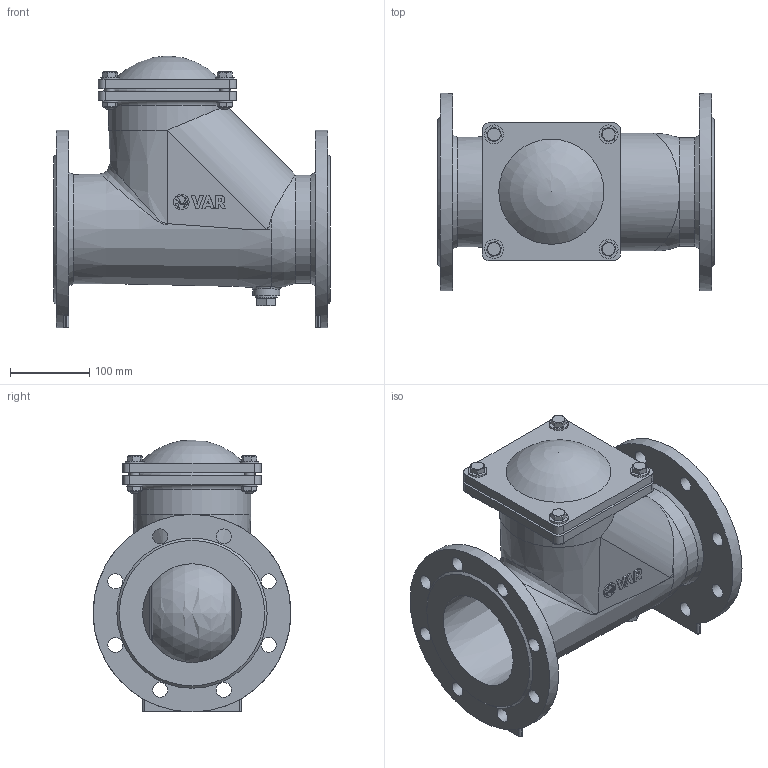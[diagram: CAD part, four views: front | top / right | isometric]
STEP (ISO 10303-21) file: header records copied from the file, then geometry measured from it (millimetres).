
FILE_DESCRIPTION(('STEP AP203'), '1');
FILE_NAME('Øàðîâîé îáðàòíûé êëàïàí VAG KRV', '', ('UNSPECIFIED'), ('UNSPECIFIED'), 'C3D Converter', 'C3D Toolkit', '');
FILE_SCHEMA(('CONFIG_CONTROL_DESIGN'));
Length unit declared in the file: millimetre
Assembly tree (22 placements, depth 2):
  (unnamed)
    (unnamed)
    (unnamed)
    (unnamed)
    (unnamed)
    (unnamed)
    (unnamed)  x4
    (unnamed)  x4
    (unnamed)  x4
    (unnamed)  x4
    (unnamed)
Bounding box: 350 x 250 x 344 mm (x, y, z)
Volume: 4380882.1 mm3; surface area: 828830.9 mm2
Topology: 23 solids, 24 shells, 550 faces, 1421 edges, 950 vertices
Faces by surface type: plane 269, extrusion 132, cylinder 83, cone 39, bspline 10, sphere 9, torus 8
Full cylindrical faces by diameter (mm): 10.106 x4, 10.5 x4, 12 x4, 13 x4, 14 x8, 16 x2, 17 x1, 19 x16, 19.736 x1, 20 x4, 22.49 x1, 24 x4, 28 x1, 34 x1, 125 x1, 137 x3, 149 x1, 250 x2
Entity records: 22176 total; most frequent: CARTESIAN_POINT 8875, ORIENTED_EDGE 2176, DIRECTION 1704, EDGE_CURVE 1088, VERTEX_POINT 756, VECTOR 700, EDGE_LOOP 598, LINE 568
